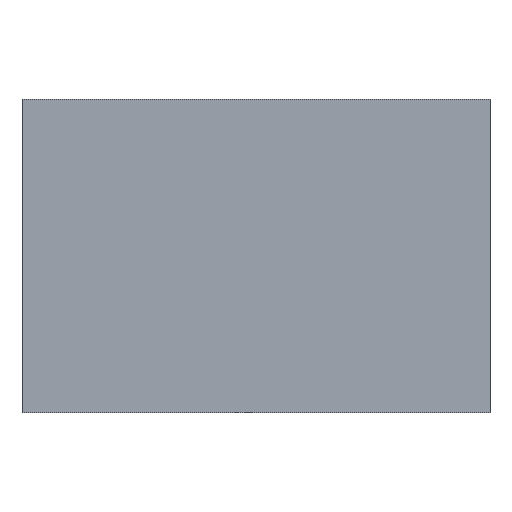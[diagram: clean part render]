
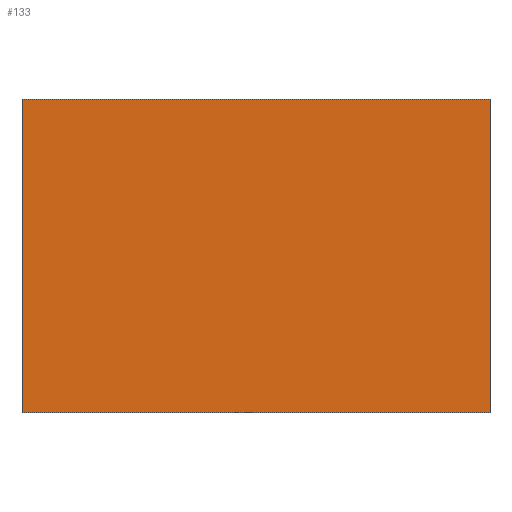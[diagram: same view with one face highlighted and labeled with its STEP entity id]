
A CAD part, left-side view. The second image highlights one B-rep face of the part: STEP entity #133.
In plain terms, the highlighted planar face has unit normal (-1, 0, 0).
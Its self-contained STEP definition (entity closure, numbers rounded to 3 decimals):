
#17=DIRECTION('',(0.,0.,-1.));
#18=VECTOR('',#17,8.5);
#19=CARTESIAN_POINT('',(-2.54,-6.35,8.5));
#20=LINE('',#19,#18);
#25=DIRECTION('',(0.,-1.,0.));
#26=VECTOR('',#25,12.7);
#27=CARTESIAN_POINT('',(-2.54,6.35,8.5));
#28=LINE('',#27,#26);
#39=DIRECTION('',(0.,-1.,0.));
#40=VECTOR('',#39,12.7);
#41=CARTESIAN_POINT('',(-2.54,6.35,0.));
#42=LINE('',#41,#40);
#95=DIRECTION('',(0.,0.,1.));
#96=VECTOR('',#95,8.5);
#97=CARTESIAN_POINT('',(-2.54,6.35,0.));
#98=LINE('',#97,#96);
#102=CARTESIAN_POINT('',(-2.54,-6.35,8.5));
#103=CARTESIAN_POINT('',(-2.54,-6.35,0.));
#104=VERTEX_POINT('',#102);
#105=VERTEX_POINT('',#103);
#106=CARTESIAN_POINT('',(-2.54,6.35,0.));
#107=VERTEX_POINT('',#106);
#108=CARTESIAN_POINT('',(-2.54,6.35,8.5));
#109=VERTEX_POINT('',#108);
#118=CARTESIAN_POINT('',(-2.54,-6.35,0.));
#119=DIRECTION('',(1.,0.,0.));
#120=DIRECTION('',(0.,0.,1.));
#121=AXIS2_PLACEMENT_3D('',#118,#119,#120);
#122=PLANE('',#121);
#124=ORIENTED_EDGE('',*,*,#123,.T.);
#126=ORIENTED_EDGE('',*,*,#125,.F.);
#128=ORIENTED_EDGE('',*,*,#127,.T.);
#130=ORIENTED_EDGE('',*,*,#129,.T.);
#131=EDGE_LOOP('',(#124,#126,#128,#130));
#132=FACE_OUTER_BOUND('',#131,.F.);
#123=EDGE_CURVE('',#104,#105,#20,.T.);
#125=EDGE_CURVE('',#107,#105,#42,.T.);
#127=EDGE_CURVE('',#107,#109,#98,.T.);
#129=EDGE_CURVE('',#109,#104,#28,.T.);
#133=ADVANCED_FACE('',(#132),#122,.F.);
